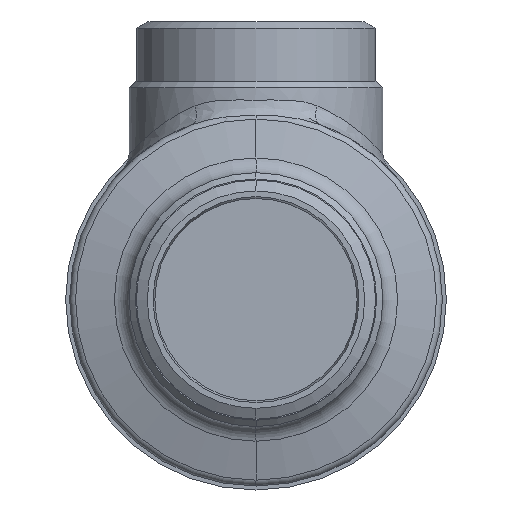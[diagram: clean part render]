
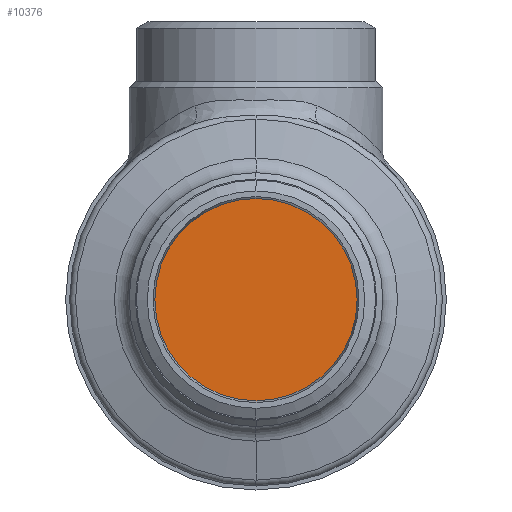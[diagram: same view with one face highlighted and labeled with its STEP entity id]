
A CAD part, front view. The second image highlights one B-rep face of the part: STEP entity #10376.
In plain terms, the highlighted planar face has unit normal (0, -1, 0).
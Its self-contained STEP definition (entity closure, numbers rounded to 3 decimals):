
#824 = EDGE_CURVE ( 'NONE', #14693, #11728, #12401, .T. ) ;
#1281 = CARTESIAN_POINT ( 'NONE',  ( 0., -83., 25.5 ) ) ;
#9677 = CIRCLE ( 'NONE', #9678, 25.5 ) ;
#9678 = AXIS2_PLACEMENT_3D ( 'NONE', #9679, #9680, #9681 ) ;
#9679 = CARTESIAN_POINT ( 'NONE',  ( 0., -83., 0. ) ) ;
#9680 = DIRECTION ( 'NONE',  ( 0., -1., 0. ) ) ;
#9681 = DIRECTION ( 'NONE',  ( 0., 0., -1. ) ) ;
#10376 = ADVANCED_FACE ( 'NONE', ( #12739 ), #12740, .T. ) ;
#10599 = CARTESIAN_POINT ( 'NONE',  ( 0., -83., -25.5 ) ) ;
#11005 = ORIENTED_EDGE ( 'NONE', *, *, #11748, .T. ) ;
#11160 = EDGE_LOOP ( 'NONE', ( #11332, #11005 ) ) ;
#11332 = ORIENTED_EDGE ( 'NONE', *, *, #824, .T. ) ;
#11728 = VERTEX_POINT ( 'NONE', #1281 ) ;
#11748 = EDGE_CURVE ( 'NONE', #11728, #14693, #9677, .T. ) ;
#12401 = CIRCLE ( 'NONE', #12402, 25.5 ) ;
#12402 = AXIS2_PLACEMENT_3D ( 'NONE', #12403, #12404, #12405 ) ;
#12403 = CARTESIAN_POINT ( 'NONE',  ( 0., -83., 0. ) ) ;
#12404 = DIRECTION ( 'NONE',  ( 0., -1., 0. ) ) ;
#12405 = DIRECTION ( 'NONE',  ( 0., 0., -1. ) ) ;
#12739 = FACE_OUTER_BOUND ( 'NONE', #11160, .T. ) ;
#12740 = PLANE ( 'NONE',  #12744 ) ;
#12744 = AXIS2_PLACEMENT_3D ( 'NONE', #12745, #12746, #12747 ) ;
#12745 = CARTESIAN_POINT ( 'NONE',  ( 0., -83., 0. ) ) ;
#12746 = DIRECTION ( 'NONE',  ( 0., -1., 0. ) ) ;
#12747 = DIRECTION ( 'NONE',  ( 0., 0., -1. ) ) ;
#14693 = VERTEX_POINT ( 'NONE', #10599 ) ;
